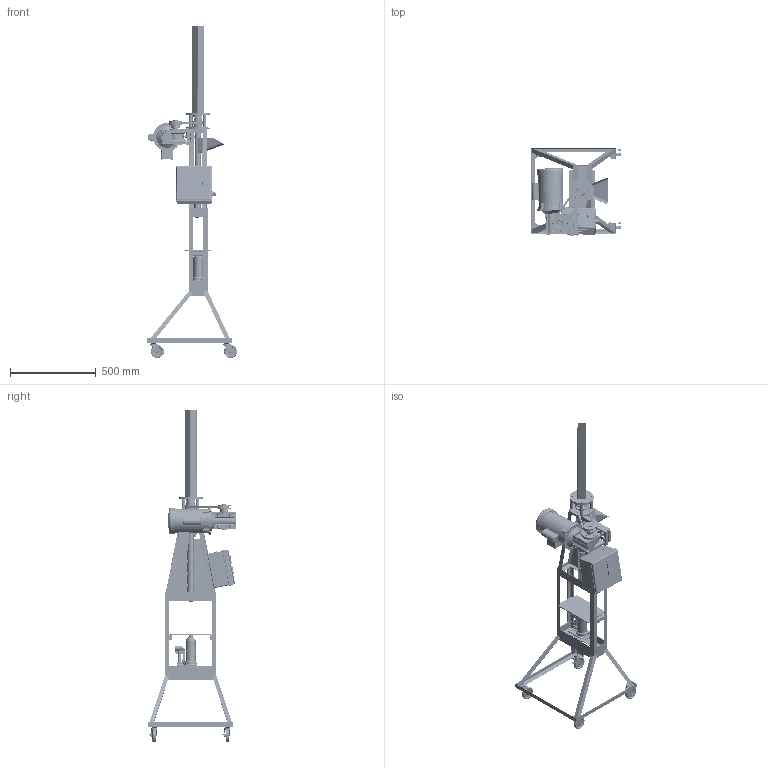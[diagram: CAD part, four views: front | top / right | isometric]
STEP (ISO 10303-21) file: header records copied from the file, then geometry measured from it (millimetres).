
FILE_DESCRIPTION(/* description */ ('El Tornillo Motored Injection Machine'),/* implementation_level */ '2;1');
FILE_NAME(/* name */ 'ETMINJ-1-0000.00-0.step',/* time_stamp */ '2023-04-20T16:31:55+02:00',/* author */ (''),/* organization */ (''),/* preprocessor_version */ 'ST-DEVELOPER v19.2',/* originating_system */ 'Autodesk Translation Framework v12.4.0.73',/* authorisation */ '');
FILE_SCHEMA (('AUTOMOTIVE_DESIGN { 1 0 10303 214 3 1 1 }'));
Products named in the file (91): ETMINJ-1-0000.00-0; ETMINJ-1-1000.00-0; ETMINJ-1-1100.00-0; ETMINJ-1-1100.01-0; ETMINJ-1-1100.02-0; ETMINJ-1-1100.03-0; ETMINJ-1-1100.04-0; ETMINJ-1-1100.05-0; Component2; ETMINJ-1-1100.05-0 v1(Mirror); Component2(Mirror); ETMINJ-1-1100.06-0; ETMINJ-1-1100.07-0; ETMINJ-1-1100.08-0; ETMINJ-1-1100.08-0 v1(Mirror); ETMINJ-1-1100.09-0; ETMINJ-1-1200.00-0; ETMINJ-1-1210.00-0; ETMINJ-1-1210.01-0; ETMINJ-1-1210.02-0; ETMINJ-1-1210.03-0; ETMINJ-1-1210.04-0; ETMINJ-1-1210.05-0; ETMINJ-1-1210.06-0; ETMINJ-1-1220.00-0; ETMINJ-1-1220.01-0; ETMINJ-1-1220.02-0; ETMINJ-1-1220.03-0; Square plastic cap big; Hydraulic jack 2 Tons_Min.180-Max.350; ETMINJ-1-1300.00-0; ETMINJ-1-1310.00-0; ETMINJ-1-1310.01-0; ETMINJ-1-1310.02-0; ETMINJ-1-1310.03-0; ETMINJ-1-1310.04-0; ETMINJ-1-1310.05-0; ETMINJ-1-1310.06-0; ETMINJ-1-1310.07-0; ETMINJ-1-1310.08-0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
Assembly tree (146 placements, depth 5):
  ETMINJ-1-0000.00-0
    ETMINJ-1-1000.00-0
      ETMINJ-1-1100.00-0
        ETMINJ-1-1100.01-0  x2
        ETMINJ-1-1100.02-0  x2
        ETMINJ-1-1100.03-0  x2
        ETMINJ-1-1100.04-0
        ETMINJ-1-1100.05-0
          Component2
        ETMINJ-1-1100.05-0 v1(Mirror)
          Component2(Mirror)
        ETMINJ-1-1100.06-0
        ETMINJ-1-1100.07-0
        ETMINJ-1-1100.08-0
        ETMINJ-1-1100.08-0 v1(Mirror)
        ETMINJ-1-1100.09-0  x4
      ETMINJ-1-1200.00-0
        ETMINJ-1-1210.00-0
          ETMINJ-1-1210.01-0  x2
          ETMINJ-1-1210.02-0  x2
          ETMINJ-1-1210.03-0  x2
          ETMINJ-1-1210.04-0  x4
          ETMINJ-1-1210.05-0  x2
          ETMINJ-1-1210.06-0  x2
        ETMINJ-1-1220.00-0
          ETMINJ-1-1220.01-0
          ETMINJ-1-1220.02-0
          ETMINJ-1-1220.03-0  x2
        Square plastic cap big  x4
        Hydraulic jack 2 Tons_Min.180-Max.350
      ETMINJ-1-1300.00-0
        ETMINJ-1-1310.00-0
          ETMINJ-1-1310.01-0  x2
          ETMINJ-1-1310.02-0  x2
          ETMINJ-1-1310.03-0  x2
          ETMINJ-1-1310.04-0  x2
          ETMINJ-1-1310.05-0
          ETMINJ-1-1310.06-0
          ETMINJ-1-1310.07-0  x2
          ETMINJ-1-1310.08-0
          ETMINJ-1-1310.09-0
        ETMINJ-1-1300.01-0  x2
        ETMINJ-1-1320.00-0
          ETMINJ-1-1320.01-0  x2
          ETMINJ-1-1320.02-0  x2
        ISO 7089-M8-8.8  x4
        ISO 4014-M8x65-8.8  x2
        ISO 7040-M8  x2
      Wheel Ø75mm (3") NoBrake  x2
      Wheel Ø75mm (3") Brake  x2
      ISO 7089-M10-8.8  x4
      ISO 7040-M10  x4
    ETMINJ-1-2000.00-0
      ETMINJ-1-2100.00-0
        ETMINJ-1-2100.01-0
        ETMINJ-1-2110.00-0
          ETMINJ-1-2110.01-0
          ETMINJ-1-2110.02-0
        ETMINJ-1-2100.02-0
        ISO 7040-M4  x2
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Bounding box: 527.28 x 515.4 x 1939.67 mm (x, y, z)
Volume: 15022382.9 mm3; surface area: 3088671.3 mm2
Topology: 194 solids, 194 shells, 5391 faces, 13604 edges, 8782 vertices
Faces by surface type: plane 2316, cylinder 1996, bspline 464, cone 464, torus 141, sphere 10
Full cylindrical faces by diameter (mm): 3.091 x62, 3.175 x6, 3.359 x2, 4 x68, 4.296 x2, 4.5 x4, 4.701 x72, 4.75 x4, 4.877 x4, 4.888 x32, 5 x1, 6 x84, 6.35 x4, 6.376 x32, 6.438 x2, 6.647 x112, 7 x10, 7.463 x60, 7.806 x15, 8 x164, 8.051 x20, 8.125 x4, 8.382 x8, 8.4 x4, 9 x12, 9.525 x116, 10 x52, 10.16 x14, 10.5 x4, 10.585 x31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
Entity records: 206031 total; most frequent: CARTESIAN_POINT 119535, ORIENTED_EDGE 18700, DIRECTION 16123, EDGE_CURVE 9350, VERTEX_POINT 6071, AXIS2_PLACEMENT_3D 5669, LINE 4785, VECTOR 4785
